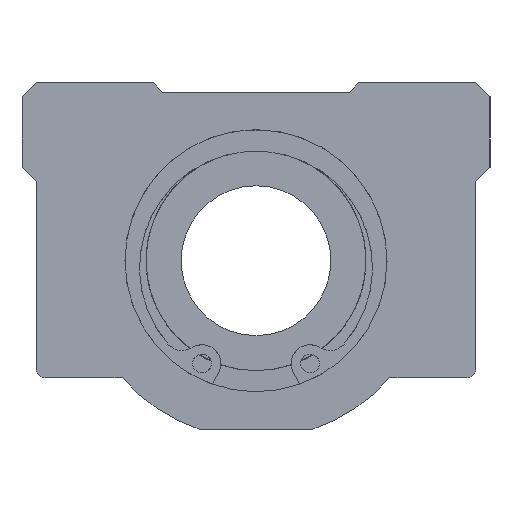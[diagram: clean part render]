
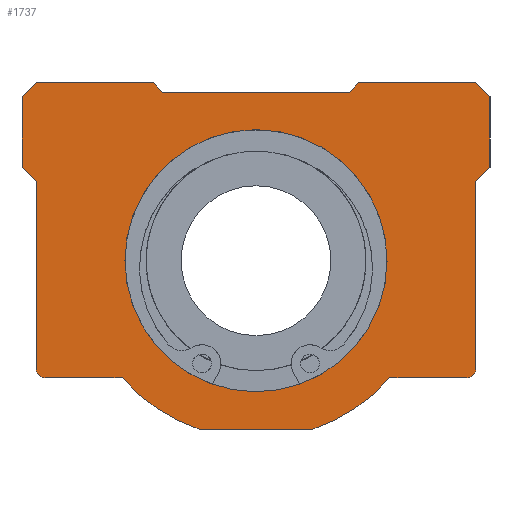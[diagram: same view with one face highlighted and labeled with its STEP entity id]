
A CAD part, left-side view. The second image highlights one B-rep face of the part: STEP entity #1737.
In plain terms, the highlighted planar face has unit normal (-1, 0, 0).
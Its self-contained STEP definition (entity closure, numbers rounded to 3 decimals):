
#1279=CARTESIAN_POINT('',(0.0,14.,0.));
#1280=VERTEX_POINT('',#1279);
#1281=CARTESIAN_POINT('',(0.0,0.0,0.0));
#1282=DIRECTION('',(1.0,0.0,0.0));
#1283=DIRECTION('',(0.0,-1.0,0.0));
#1284=AXIS2_PLACEMENT_3D('',#1281,#1282,#1283);
#1285=CIRCLE('',#1284,14.);
#1286=EDGE_CURVE('',#1280,#1280,#1285,.T.);
#1313=CARTESIAN_POINT('',(0.0,22.5,-12.5));
#1314=VERTEX_POINT('',#1313);
#1321=CARTESIAN_POINT('',(0.0,23.5,-11.5));
#1322=VERTEX_POINT('',#1321);
#1323=CARTESIAN_POINT('',(0.0,22.5,-11.5));
#1324=DIRECTION('',(1.,0.0,0.0));
#1325=DIRECTION('',(0.0,0.707,-0.707));
#1326=AXIS2_PLACEMENT_3D('',#1323,#1324,#1325);
#1327=CIRCLE('',#1326,1.);
#1328=EDGE_CURVE('',#1314,#1322,#1327,.T.);
#1353=CARTESIAN_POINT('',(0.0,14.309,-12.5));
#1354=VERTEX_POINT('',#1353);
#1361=CARTESIAN_POINT('',(0.0,14.309,-12.5));
#1362=DIRECTION('',(0.0,1.0,0.0));
#1363=VECTOR('',#1362,8.191);
#1364=LINE('',#1361,#1363);
#1365=EDGE_CURVE('',#1354,#1314,#1364,.T.);
#1564=CARTESIAN_POINT('',(0.0,-23.5,-11.5));
#1565=VERTEX_POINT('',#1564);
#1572=CARTESIAN_POINT('',(0.0,-22.5,-12.5));
#1573=VERTEX_POINT('',#1572);
#1574=CARTESIAN_POINT('',(0.0,-22.5,-11.5));
#1575=DIRECTION('',(1.,0.0,0.0));
#1576=DIRECTION('',(0.0,-0.707,-0.707));
#1577=AXIS2_PLACEMENT_3D('',#1574,#1575,#1576);
#1578=CIRCLE('',#1577,1.);
#1579=EDGE_CURVE('',#1565,#1573,#1578,.T.);
#1590=CARTESIAN_POINT('',(0.0,0.,2.049));
#1591=DIRECTION('',(1.0,0.0,0.0));
#1592=DIRECTION('',(0.0,0.0,-1.0));
#1593=AXIS2_PLACEMENT_3D('',#1590,#1591,#1592);
#1594=PLANE('',#1593);
#1595=ORIENTED_EDGE('',*,*,#1328,.F.);
#1596=ORIENTED_EDGE('',*,*,#1365,.F.);
#1597=CARTESIAN_POINT('',(0.0,6.083,-18.));
#1598=VERTEX_POINT('',#1597);
#1599=CARTESIAN_POINT('',(0.0,0.0,0.0));
#1600=DIRECTION('',(1.,0.0,0.0));
#1601=DIRECTION('',(0.0,0.32,-0.947));
#1602=AXIS2_PLACEMENT_3D('',#1599,#1600,#1601);
#1603=CIRCLE('',#1602,19.);
#1604=EDGE_CURVE('',#1598,#1354,#1603,.T.);
#1605=ORIENTED_EDGE('',*,*,#1604,.F.);
#1606=CARTESIAN_POINT('',(0.0,-6.083,-18.));
#1607=VERTEX_POINT('',#1606);
#1608=CARTESIAN_POINT('',(0.0,-6.083,-18.));
#1609=DIRECTION('',(0.0,1.0,0.0));
#1610=VECTOR('',#1609,12.166);
#1611=LINE('',#1608,#1610);
#1612=EDGE_CURVE('',#1607,#1598,#1611,.T.);
#1613=ORIENTED_EDGE('',*,*,#1612,.F.);
#1614=CARTESIAN_POINT('',(0.0,-14.309,-12.5));
#1615=VERTEX_POINT('',#1614);
#1616=CARTESIAN_POINT('',(0.0,0.0,0.0));
#1617=DIRECTION('',(1.,0.0,0.0));
#1618=DIRECTION('',(0.0,0.32,-0.947));
#1619=AXIS2_PLACEMENT_3D('',#1616,#1617,#1618);
#1620=CIRCLE('',#1619,19.);
#1621=EDGE_CURVE('',#1615,#1607,#1620,.T.);
#1622=ORIENTED_EDGE('',*,*,#1621,.F.);
#1623=CARTESIAN_POINT('',(0.0,-22.5,-12.5));
#1624=DIRECTION('',(0.0,1.0,0.0));
#1625=VECTOR('',#1624,8.191);
#1626=LINE('',#1623,#1625);
#1627=EDGE_CURVE('',#1573,#1615,#1626,.T.);
#1628=ORIENTED_EDGE('',*,*,#1627,.F.);
#1629=ORIENTED_EDGE('',*,*,#1579,.F.);
#1630=CARTESIAN_POINT('',(0.0,-23.5,8.5));
#1631=VERTEX_POINT('',#1630);
#1632=CARTESIAN_POINT('',(0.0,-23.5,8.5));
#1633=DIRECTION('',(0.0,0.0,-1.0));
#1634=VECTOR('',#1633,20.);
#1635=LINE('',#1632,#1634);
#1636=EDGE_CURVE('',#1631,#1565,#1635,.T.);
#1637=ORIENTED_EDGE('',*,*,#1636,.F.);
#1638=CARTESIAN_POINT('',(0.0,-25.0,10.));
#1639=VERTEX_POINT('',#1638);
#1640=CARTESIAN_POINT('',(0.0,-25.0,10.));
#1641=DIRECTION('',(0.0,0.707,-0.707));
#1642=VECTOR('',#1641,2.121);
#1643=LINE('',#1640,#1642);
#1644=EDGE_CURVE('',#1639,#1631,#1643,.T.);
#1645=ORIENTED_EDGE('',*,*,#1644,.F.);
#1646=CARTESIAN_POINT('',(0.0,-25.0,17.5));
#1647=VERTEX_POINT('',#1646);
#1648=CARTESIAN_POINT('',(0.0,-25.0,17.5));
#1649=DIRECTION('',(0.0,0.0,-1.0));
#1650=VECTOR('',#1649,7.5);
#1651=LINE('',#1648,#1650);
#1652=EDGE_CURVE('',#1647,#1639,#1651,.T.);
#1653=ORIENTED_EDGE('',*,*,#1652,.F.);
#1654=CARTESIAN_POINT('',(0.0,-23.5,19.));
#1655=VERTEX_POINT('',#1654);
#1656=CARTESIAN_POINT('',(0.0,-23.5,19.));
#1657=DIRECTION('',(0.0,-0.707,-0.707));
#1658=VECTOR('',#1657,2.121);
#1659=LINE('',#1656,#1658);
#1660=EDGE_CURVE('',#1655,#1647,#1659,.T.);
#1661=ORIENTED_EDGE('',*,*,#1660,.F.);
#1662=CARTESIAN_POINT('',(0.0,-11.0,19.));
#1663=VERTEX_POINT('',#1662);
#1664=CARTESIAN_POINT('',(0.0,-11.0,19.));
#1665=DIRECTION('',(0.0,-1.0,0.0));
#1666=VECTOR('',#1665,12.5);
#1667=LINE('',#1664,#1666);
#1668=EDGE_CURVE('',#1663,#1655,#1667,.T.);
#1669=ORIENTED_EDGE('',*,*,#1668,.F.);
#1670=CARTESIAN_POINT('',(0.0,-10.0,18.0));
#1671=VERTEX_POINT('',#1670);
#1672=CARTESIAN_POINT('',(0.0,-10.0,18.0));
#1673=DIRECTION('',(0.0,-0.707,0.707));
#1674=VECTOR('',#1673,1.414);
#1675=LINE('',#1672,#1674);
#1676=EDGE_CURVE('',#1671,#1663,#1675,.T.);
#1677=ORIENTED_EDGE('',*,*,#1676,.F.);
#1678=CARTESIAN_POINT('',(0.0,10.0,18.0));
#1679=VERTEX_POINT('',#1678);
#1680=CARTESIAN_POINT('',(0.0,10.0,18.0));
#1681=DIRECTION('',(0.0,-1.0,0.0));
#1682=VECTOR('',#1681,20.0);
#1683=LINE('',#1680,#1682);
#1684=EDGE_CURVE('',#1679,#1671,#1683,.T.);
#1685=ORIENTED_EDGE('',*,*,#1684,.F.);
#1686=CARTESIAN_POINT('',(0.0,11.0,19.));
#1687=VERTEX_POINT('',#1686);
#1688=CARTESIAN_POINT('',(0.0,11.0,19.));
#1689=DIRECTION('',(0.0,-0.707,-0.707));
#1690=VECTOR('',#1689,1.414);
#1691=LINE('',#1688,#1690);
#1692=EDGE_CURVE('',#1687,#1679,#1691,.T.);
#1693=ORIENTED_EDGE('',*,*,#1692,.F.);
#1694=CARTESIAN_POINT('',(0.0,23.5,19.));
#1695=VERTEX_POINT('',#1694);
#1696=CARTESIAN_POINT('',(0.0,23.5,19.));
#1697=DIRECTION('',(0.0,-1.0,0.0));
#1698=VECTOR('',#1697,12.5);
#1699=LINE('',#1696,#1698);
#1700=EDGE_CURVE('',#1695,#1687,#1699,.T.);
#1701=ORIENTED_EDGE('',*,*,#1700,.F.);
#1702=CARTESIAN_POINT('',(0.0,25.0,17.5));
#1703=VERTEX_POINT('',#1702);
#1704=CARTESIAN_POINT('',(0.0,25.0,17.5));
#1705=DIRECTION('',(0.0,-0.707,0.707));
#1706=VECTOR('',#1705,2.121);
#1707=LINE('',#1704,#1706);
#1708=EDGE_CURVE('',#1703,#1695,#1707,.T.);
#1709=ORIENTED_EDGE('',*,*,#1708,.F.);
#1710=CARTESIAN_POINT('',(0.0,25.0,10.));
#1711=VERTEX_POINT('',#1710);
#1712=CARTESIAN_POINT('',(0.0,25.0,10.));
#1713=DIRECTION('',(0.0,0.0,1.0));
#1714=VECTOR('',#1713,7.5);
#1715=LINE('',#1712,#1714);
#1716=EDGE_CURVE('',#1711,#1703,#1715,.T.);
#1717=ORIENTED_EDGE('',*,*,#1716,.F.);
#1718=CARTESIAN_POINT('',(0.0,23.5,8.5));
#1719=VERTEX_POINT('',#1718);
#1720=CARTESIAN_POINT('',(0.0,23.5,8.5));
#1721=DIRECTION('',(0.0,0.707,0.707));
#1722=VECTOR('',#1721,2.121);
#1723=LINE('',#1720,#1722);
#1724=EDGE_CURVE('',#1719,#1711,#1723,.T.);
#1725=ORIENTED_EDGE('',*,*,#1724,.F.);
#1726=CARTESIAN_POINT('',(0.0,23.5,-11.5));
#1727=DIRECTION('',(0.0,0.0,1.0));
#1728=VECTOR('',#1727,20.);
#1729=LINE('',#1726,#1728);
#1730=EDGE_CURVE('',#1322,#1719,#1729,.T.);
#1731=ORIENTED_EDGE('',*,*,#1730,.F.);
#1732=EDGE_LOOP('',(#1595,#1596,#1605,#1613,#1622,#1628,#1629,#1637,#1645,#1653,#1661,#1669,#1677,#1685,#1693,#1701,#1709,#1717,#1725,#1731));
#1733=FACE_OUTER_BOUND('',#1732,.T.);
#1734=ORIENTED_EDGE('',*,*,#1286,.T.);
#1735=EDGE_LOOP('',(#1734));
#1736=FACE_BOUND('',#1735,.T.);
#1737=ADVANCED_FACE('',(#1733,#1736),#1594,.F.);
